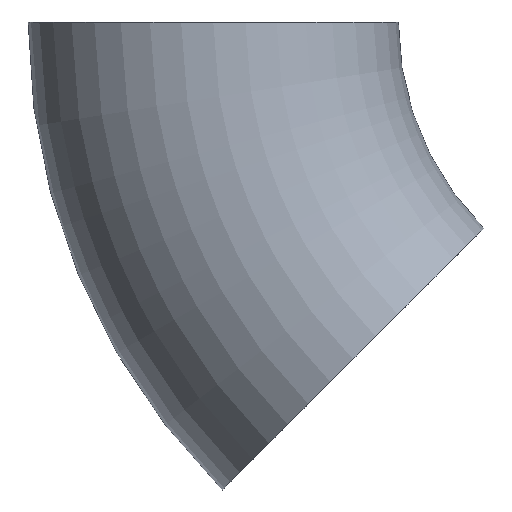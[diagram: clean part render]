
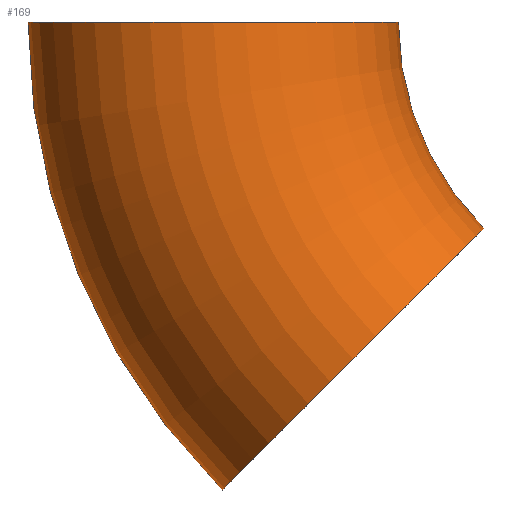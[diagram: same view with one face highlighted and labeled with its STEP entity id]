
A CAD part, front view. The second image highlights one B-rep face of the part: STEP entity #169.
In plain terms, the highlighted toroidal (fillet/blend) face has major radius 114.5 mm and minor radius 44.45 mm.
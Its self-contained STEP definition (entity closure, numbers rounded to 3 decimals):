
#4 = CARTESIAN_POINT ( 'NONE',  ( -49.533, 0., -49.533 ) ) ;
#5 = EDGE_CURVE ( 'NONE', #97, #19, #21, .T. ) ;
#6 = DIRECTION ( 'NONE',  ( 0., 0., 1. ) ) ;
#10 = DIRECTION ( 'NONE',  ( 0.707, 0., 0.707 ) ) ;
#11 = CARTESIAN_POINT ( 'NONE',  ( -70.05, 0., 0. ) ) ;
#16 = AXIS2_PLACEMENT_3D ( 'NONE', #36, #189, #6 ) ;
#19 = VERTEX_POINT ( 'NONE', #252 ) ;
#20 = CIRCLE ( 'NONE', #42, 44.45 ) ;
#21 = CIRCLE ( 'NONE', #231, 158.95 ) ;
#29 = CARTESIAN_POINT ( 'NONE',  ( 0., 0., 0. ) ) ;
#31 = AXIS2_PLACEMENT_3D ( 'NONE', #146, #87, #208 ) ;
#36 = CARTESIAN_POINT ( 'NONE',  ( 0., 0., 0. ) ) ;
#41 = DIRECTION ( 'NONE',  ( 0., 1., 0. ) ) ;
#42 = AXIS2_PLACEMENT_3D ( 'NONE', #63, #81, #181 ) ;
#55 = VERTEX_POINT ( 'NONE', #4 ) ;
#58 = CIRCLE ( 'NONE', #220, 44.45 ) ;
#63 = CARTESIAN_POINT ( 'NONE',  ( -114.5, 0., 0. ) ) ;
#81 = DIRECTION ( 'NONE',  ( 0., 0., 1. ) ) ;
#87 = DIRECTION ( 'NONE',  ( 0., 1., 0. ) ) ;
#94 = ORIENTED_EDGE ( 'NONE', *, *, #175, .T. ) ;
#97 = VERTEX_POINT ( 'NONE', #180 ) ;
#105 = TOROIDAL_SURFACE ( 'NONE', #16, 114.5, 44.45 ) ;
#111 = ORIENTED_EDGE ( 'NONE', *, *, #5, .F. ) ;
#112 = EDGE_CURVE ( 'NONE', #19, #251, #20, .T. ) ;
#130 = ORIENTED_EDGE ( 'NONE', *, *, #112, .F. ) ;
#133 = CIRCLE ( 'NONE', #31, 70.05 ) ;
#146 = CARTESIAN_POINT ( 'NONE',  ( 0., 0., 0. ) ) ;
#156 = DIRECTION ( 'NONE',  ( 0., 0., 1. ) ) ;
#163 = DIRECTION ( 'NONE',  ( -0.707, 0., 0.707 ) ) ;
#169 = ADVANCED_FACE ( 'NONE', ( #228 ), #105, .T. ) ;
#175 = EDGE_CURVE ( 'NONE', #97, #55, #58, .T. ) ;
#179 = EDGE_LOOP ( 'NONE', ( #111, #94, #213, #130 ) ) ;
#180 = CARTESIAN_POINT ( 'NONE',  ( -112.395, 0., -112.395 ) ) ;
#181 = DIRECTION ( 'NONE',  ( 1., 0., 0. ) ) ;
#185 = CARTESIAN_POINT ( 'NONE',  ( -80.964, 0., -80.964 ) ) ;
#189 = DIRECTION ( 'NONE',  ( 0., 1., 0. ) ) ;
#208 = DIRECTION ( 'NONE',  ( 0., 0., 1. ) ) ;
#213 = ORIENTED_EDGE ( 'NONE', *, *, #214, .T. ) ;
#214 = EDGE_CURVE ( 'NONE', #55, #251, #133, .T. ) ;
#220 = AXIS2_PLACEMENT_3D ( 'NONE', #185, #163, #10 ) ;
#228 = FACE_OUTER_BOUND ( 'NONE', #179, .T. ) ;
#231 = AXIS2_PLACEMENT_3D ( 'NONE', #29, #41, #156 ) ;
#251 = VERTEX_POINT ( 'NONE', #11 ) ;
#252 = CARTESIAN_POINT ( 'NONE',  ( -158.95, 0., 0. ) ) ;
